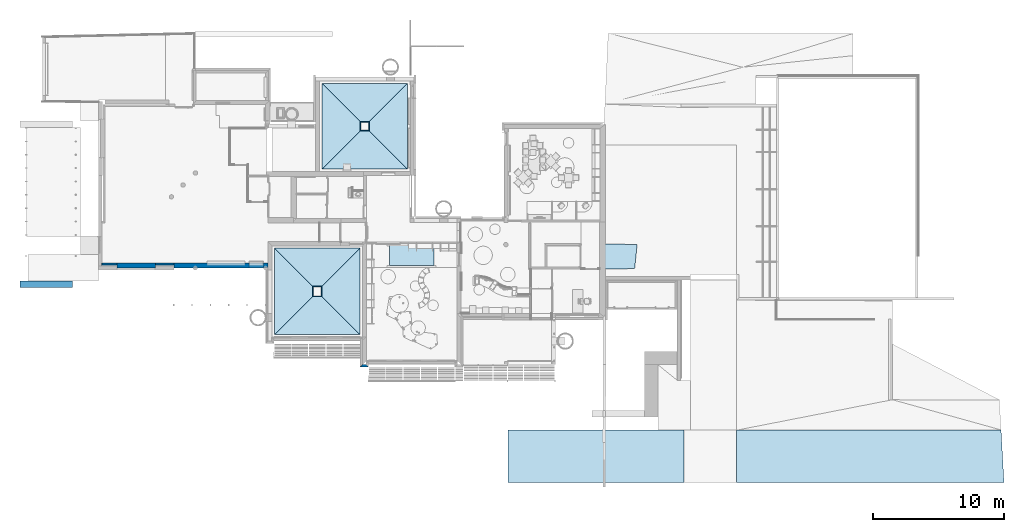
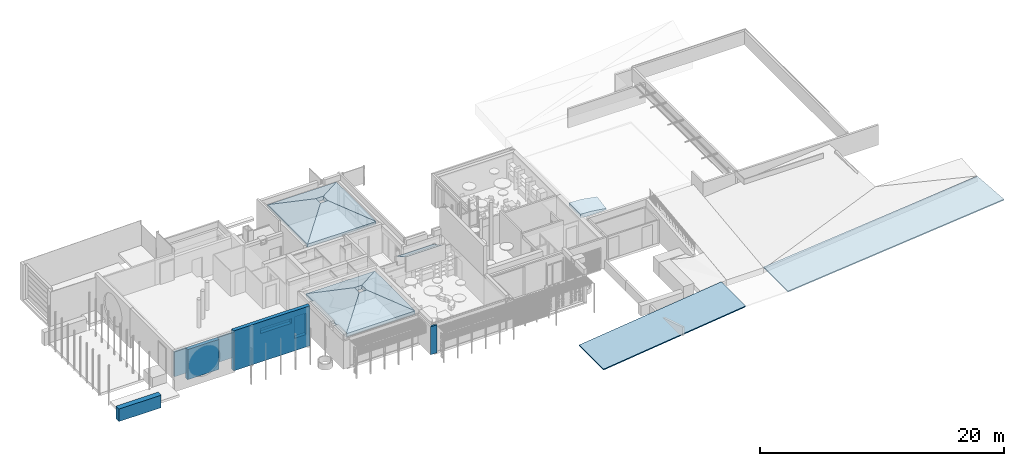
# One storey, part 18 of 64: 12 slabs, 8 walls, 2 openings.
"""IFC2X3 building model written with IfcOpenShell, lengths in metres."""

from ifc_helpers import new_model, entity, si_unit, converted_unit, derived_unit, direction, frame, frame_2d, origin, place, context, subcontext, project, spatial, polyline, rectangle, outline, extrude, faceted_brep, material, layer, layer_set, layer_usage, type_object, element, save


model = new_model("IFC2X3")

# Units and contexts
model_context = context("Model", 3, precision=1e-05, world=origin(), true_north=direction((6.123031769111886e-17, 1.0)))
body_context = subcontext(model_context, "Body", "Model", "MODEL_VIEW")
ifc_project = project(units=[si_unit("LENGTHUNIT", "METRE"), si_unit("AREAUNIT", "SQUARE_METRE"), si_unit("VOLUMEUNIT", "CUBIC_METRE"), converted_unit("PLANEANGLEUNIT", "DEGREE", entity("IfcRatioMeasure", 0.017453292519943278), si_unit("PLANEANGLEUNIT", "RADIAN"), dimensions=[0, 0, 0, 0, 0, 0, 0]), si_unit("MASSUNIT", "GRAM", prefix="KILO"), derived_unit("MASSDENSITYUNIT", [(si_unit("MASSUNIT", "GRAM", prefix="KILO"), 1), (si_unit("LENGTHUNIT", "METRE"), -3)]), derived_unit("MOMENTOFINERTIAUNIT", [(si_unit("LENGTHUNIT", "METRE"), 4)]), si_unit("TIMEUNIT", "SECOND"), si_unit("FREQUENCYUNIT", "HERTZ"), si_unit("THERMODYNAMICTEMPERATUREUNIT", "DEGREE_CELSIUS"), derived_unit("THERMALTRANSMITTANCEUNIT", [(si_unit("MASSUNIT", "GRAM", prefix="KILO"), 1), (si_unit("THERMODYNAMICTEMPERATUREUNIT", "KELVIN"), -1), (si_unit("TIMEUNIT", "SECOND"), -3)]), derived_unit("THERMALCONDUCTANCEUNIT", [(si_unit("MASSUNIT", "GRAM", prefix="KILO"), 1), (si_unit("LENGTHUNIT", "METRE"), 1), (si_unit("THERMODYNAMICTEMPERATUREUNIT", "KELVIN"), -1), (si_unit("TIMEUNIT", "SECOND"), -3)]), derived_unit("VOLUMETRICFLOWRATEUNIT", [(si_unit("LENGTHUNIT", "METRE"), 3), (si_unit("TIMEUNIT", "SECOND"), -1)]), derived_unit("MASSFLOWRATEUNIT", [(si_unit("MASSUNIT", "GRAM", prefix="KILO"), 1), (si_unit("TIMEUNIT", "SECOND"), -1)]), derived_unit("ROTATIONALFREQUENCYUNIT", [(si_unit("TIMEUNIT", "SECOND"), -1)]), si_unit("ELECTRICCURRENTUNIT", "AMPERE"), si_unit("ELECTRICVOLTAGEUNIT", "VOLT"), si_unit("POWERUNIT", "WATT"), si_unit("FORCEUNIT", "NEWTON", prefix="KILO"), si_unit("ILLUMINANCEUNIT", "LUX"), si_unit("LUMINOUSFLUXUNIT", "LUMEN"), si_unit("LUMINOUSINTENSITYUNIT", "CANDELA"), derived_unit("USERDEFINED", [(si_unit("MASSUNIT", "GRAM", prefix="KILO"), -1), (si_unit("LENGTHUNIT", "METRE"), -2), (si_unit("TIMEUNIT", "SECOND"), 3), (si_unit("LUMINOUSFLUXUNIT", "LUMEN"), 1)]), derived_unit("USERDEFINED", [(si_unit("MASSUNIT", "GRAM", prefix="KILO"), 1), (si_unit("LENGTHUNIT", "METRE"), 3), (si_unit("TIMEUNIT", "SECOND"), -3), (si_unit("ELECTRICCURRENTUNIT", "AMPERE"), -2)]), derived_unit("USERDEFINED", [(si_unit("LENGTHUNIT", "METRE"), 2), (si_unit("TIMEUNIT", "SECOND"), -2)]), derived_unit("SOUNDPOWERUNIT", [(si_unit("MASSUNIT", "GRAM", prefix="KILO"), 1), (si_unit("LENGTHUNIT", "METRE"), 2), (si_unit("TIMEUNIT", "SECOND"), -3)]), derived_unit("SOUNDPRESSUREUNIT", [(si_unit("MASSUNIT", "GRAM", prefix="KILO"), 1), (si_unit("LENGTHUNIT", "METRE"), -1), (si_unit("TIMEUNIT", "SECOND"), -2)]), derived_unit("LINEARVELOCITYUNIT", [(si_unit("LENGTHUNIT", "METRE"), 1), (si_unit("TIMEUNIT", "SECOND"), -1)]), si_unit("PRESSUREUNIT", "PASCAL"), derived_unit("USERDEFINED", [(si_unit("LENGTHUNIT", "METRE"), -2), (si_unit("MASSUNIT", "GRAM", prefix="KILO"), 1), (si_unit("TIMEUNIT", "SECOND"), -2)]), derived_unit("LINEARFORCEUNIT", [(si_unit("MASSUNIT", "GRAM", prefix="KILO"), 1), (si_unit("LENGTHUNIT", "METRE"), 1), (si_unit("TIMEUNIT", "SECOND"), -2), (si_unit("LENGTHUNIT", "METRE"), -1)]), derived_unit("PLANARFORCEUNIT", [(si_unit("MASSUNIT", "GRAM", prefix="KILO"), 1), (si_unit("LENGTHUNIT", "METRE"), 1), (si_unit("TIMEUNIT", "SECOND"), -2), (si_unit("LENGTHUNIT", "METRE"), -2)]), derived_unit("SPECIFICHEATCAPACITYUNIT", [(si_unit("LENGTHUNIT", "METRE"), 2), (si_unit("TIMEUNIT", "SECOND"), -2), (si_unit("THERMODYNAMICTEMPERATUREUNIT", "KELVIN"), -1)]), derived_unit("VAPORPERMEABILITYUNIT", [(si_unit("TIMEUNIT", "SECOND"), 1), (si_unit("LENGTHUNIT", "METRE"), -1)]), derived_unit("DYNAMICVISCOSITYUNIT", [(si_unit("MASSUNIT", "GRAM", prefix="KILO"), 1), (si_unit("LENGTHUNIT", "METRE"), -1), (si_unit("TIMEUNIT", "SECOND"), -1)]), derived_unit("THERMALEXPANSIONCOEFFICIENTUNIT", [(si_unit("THERMODYNAMICTEMPERATUREUNIT", "KELVIN"), -1)])], contexts=[model_context])

# Site, building, storey
site_placement = place(None, origin())
site = spatial("IfcSite", under=ifc_project, at=site_placement, Name="Default", CompositionType="ELEMENT")
building_placement = place(site_placement, origin())
building = spatial("IfcBuilding", under=site, at=building_placement, CompositionType="ELEMENT")
storey_placement = place(building_placement, origin())
storey = spatial("IfcBuildingStorey", under=building, at=storey_placement, Name="REZ-DE-CHAUSSÉE", CompositionType="ELEMENT", Elevation=0.0)

# Slabs
ifc_material_1 = material(Name="Béton - Brut")
slab_type_1 = type_object("IfcSlabType", Name="Dalle-005", PredefinedType="FLOOR", material=ifc_material_1)
slab_1_placement = place(storey_placement, frame((128.20075228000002, 11.468186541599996, 2.6399999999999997)))
element("IfcSlab", 1, at=slab_1_placement, inside=storey, type_object=slab_type_1, Name="Dalle-005:Dalle-005", ObjectType="Dalle-005:Dalle-005", PredefinedType="FLOOR", context=body_context, shape_type="Brep", body=[
    faceted_brep([(0.0, 0.00896808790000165, 0.4), (0.0, 0.00896808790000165, 0.0), (1.0294907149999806, 0.0, 0.0), (1.0294907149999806, 0.0, 0.35999999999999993), (0.0, 1.906072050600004, 0.4), (0.0, 1.906072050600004, 0.0), (1.150994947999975, 1.9012303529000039, 0.0), (2.6219714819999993, 1.8539534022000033, 0.0), (2.4378962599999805, 0.02518903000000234, 0.0), (2.4378962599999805, 0.02518903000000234, 0.13000000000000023), (1.150994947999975, 1.9012303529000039, 0.35999999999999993), (2.6219714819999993, 1.8539534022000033, 0.13000000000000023)], [[[0, 1, 2, 3]], [[1, 0, 4, 5]], [[1, 5, 6, 7, 8, 2]], [[9, 3, 2, 8]], [[3, 4, 0]], [[5, 4, 10, 6]], [[6, 10, 11, 7]], [[9, 8, 7, 11]], [[3, 9, 10]], [[4, 3, 10]], [[10, 9, 11]]]),
])
ifc_material_2 = material(Name="Isolation - Fibre de verre")
slab_type_2 = type_object("IfcSlabType", Name="Toit-01", PredefinedType="ROOF", material=ifc_material_2)
slab_2_placement = place(storey_placement, frame((103.16075228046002, 6.457209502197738, 2.5699999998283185)))
element("IfcSlab", 2, at=slab_2_placement, inside=storey, type_object=slab_type_2, Name="Toit-01 443125:Toit-01 443125", ObjectType="Toit-01 443125:Toit-01 443125", PredefinedType="ROOF", context=body_context, shape_type="Brep", body=[
    faceted_brep([(6.509999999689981, 0.0, 0.35303933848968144), (3.6195264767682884, 2.8904735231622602, 1.700000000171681), (2.8904735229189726, 2.8904735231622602, 1.700000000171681), (0.0, 0.0, 0.353039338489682), (6.510000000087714, 0.0, 0.022064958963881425), (3.5530578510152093, 2.956942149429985, 1.400000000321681), (2.9569421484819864, 2.9569421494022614, 1.400000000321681), (0.0, 0.0, 0.022064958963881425), (0.0, 0.0, 0.0), (6.510000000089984, 0.0, 0.0), (2.961373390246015, 2.961373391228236, 1.380000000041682), (3.5486266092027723, 2.9613733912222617, 1.3800000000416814)], [[[0, 1, 2, 3]], [[0, 4, 5, 1]], [[1, 5, 6, 2]], [[2, 6, 7, 3]], [[3, 7, 4, 0]], [[4, 7, 6, 5]], [[7, 8, 9, 4]], [[6, 10, 8, 7]], [[8, 10, 11, 9]], [[4, 9, 11, 5]], [[4, 5, 6, 7]], [[5, 11, 10, 6]]]),
])
slab_type_3 = type_object("IfcSlabType", Name="Toit-01", PredefinedType="ROOF", material=ifc_material_2)
slab_3_placement = place(storey_placement, frame((103.1607522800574, 10.085836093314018, 2.5699999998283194)))
element("IfcSlab", 3, at=slab_3_placement, inside=storey, type_object=slab_type_3, Name="Toit-01 443288:Toit-01 443288", ObjectType="Toit-01 443288:Toit-01 443288", PredefinedType="ROOF", context=body_context, shape_type="Brep", body=[
    faceted_brep([(2.890473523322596, 0.07089986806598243, 1.70000000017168), (3.619526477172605, 0.07089986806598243, 1.70000000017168), (6.5100000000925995, 2.961373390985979, 0.35303933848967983), (0.0, 2.961373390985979, 0.35303933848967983), (2.9569421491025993, 0.0044312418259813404, 1.40000000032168), (3.5530578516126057, 0.0044312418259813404, 1.40000000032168), (6.509999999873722, 2.961373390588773, 0.022064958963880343), (0.0, 2.961373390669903, 0.022064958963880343), (0.0, 2.9613733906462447, 0.0), (2.9613733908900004, 0.0, 1.3800000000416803), (6.509999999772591, 2.9613733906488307, 0.0), (3.5486266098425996, 0.0, 1.380000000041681)], [[[0, 1, 2, 3]], [[0, 4, 5, 1]], [[1, 5, 6, 2]], [[2, 6, 7, 3]], [[3, 7, 4, 0]], [[4, 7, 6, 5]], [[7, 8, 9, 4]], [[6, 10, 8, 7]], [[8, 10, 11, 9]], [[4, 9, 11, 5]], [[4, 5, 6, 7]], [[5, 11, 10, 6]]]),
])
slab_type_4 = type_object("IfcSlabType", Name="Toit-01", PredefinedType="ROOF", material=ifc_material_2)
slab_4_placement = place(storey_placement, frame((106.70937888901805, 6.457209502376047, 2.569999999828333)))
element("IfcSlab", 4, at=slab_4_placement, inside=storey, type_object=slab_type_4, Name="Toit-01 443451:Toit-01 443451", ObjectType="Toit-01 443451:Toit-01 443451", PredefinedType="ROOF", context=body_context, shape_type="Brep", body=[
    faceted_brep([(2.9613733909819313, 6.589999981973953, 0.35303933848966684), (0.07089986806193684, 3.6995264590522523, 1.700000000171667), (0.07089986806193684, 2.8904735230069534, 1.700000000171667), (2.9613733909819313, 0.0, 0.35303933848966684), (2.961373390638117, 6.5899999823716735, 0.022064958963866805), (0.004431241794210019, 3.633057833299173, 1.4000000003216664), (0.004431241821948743, 2.956942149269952, 1.4000000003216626), (2.9613733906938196, 0.0, 0.022064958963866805), (2.9613733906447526, 0.0, 0.0), (2.9613733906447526, 6.5899999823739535, 0.0), (0.0, 2.9613733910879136, 1.3800000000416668), (0.0, 3.6286265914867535, 1.3800000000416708)], [[[0, 1, 2, 3]], [[0, 4, 5, 1]], [[1, 5, 6, 2]], [[2, 6, 7, 3]], [[3, 7, 4, 0]], [[4, 7, 6, 5]], [[7, 8, 9, 4]], [[6, 10, 8, 7]], [[8, 10, 11, 9]], [[4, 9, 11, 5]], [[4, 5, 6, 7]], [[5, 11, 10, 6]]]),
])
slab_type_5 = type_object("IfcSlabType", Name="Toit-01", PredefinedType="ROOF", material=ifc_material_2)
slab_5_placement = place(storey_placement, frame((103.16075228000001, 6.45720950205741, 2.569999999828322)))
element("IfcSlab", 5, at=slab_5_placement, inside=storey, type_object=slab_type_5, Name="Toit-01 443614:Toit-01 443614", ObjectType="Toit-01 443614:Toit-01 443614", PredefinedType="ROOF", context=body_context, shape_type="Brep", body=[
    faceted_brep([(2.890473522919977, 2.8904735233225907, 1.7000000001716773), (2.890473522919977, 3.6995264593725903, 1.7000000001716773), (0.0, 6.589999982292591, 0.3530393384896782), (0.0, 0.0, 0.3530393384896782), (2.9569421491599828, 2.956942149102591, 1.4000000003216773), (2.9569421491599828, 3.633057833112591, 1.4000000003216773), (0.0, 6.589999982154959, 0.022064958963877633), (0.0, 0.0, 0.022064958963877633), (0.0, 0.0, 0.0), (2.9613733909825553, 2.961373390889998, 1.3800000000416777), (0.0, 6.58999998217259, 0.0), (2.9613733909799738, 3.628626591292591, 1.3800000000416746)], [[[0, 1, 2, 3]], [[0, 4, 5, 1]], [[1, 5, 6, 2]], [[2, 6, 7, 3]], [[3, 7, 4, 0]], [[4, 7, 6, 5]], [[7, 8, 9, 4]], [[6, 10, 8, 7]], [[8, 10, 11, 9]], [[4, 9, 11, 5]], [[4, 5, 6, 7]], [[5, 11, 10, 6]]]),
])
slab_type_6 = type_object("IfcSlabType", Name="Toit-01", PredefinedType="ROOF", material=ifc_material_2)
slab_6_placement = place(storey_placement, frame((106.80075227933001, 19.097209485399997, 2.5699999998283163)))
element("IfcSlab", 6, at=slab_6_placement, inside=storey, type_object=slab_type_6, Name="Toit-01 443777:Toit-01 443777", ObjectType="Toit-01 443777:Toit-01 443777", PredefinedType="ROOF", context=body_context, shape_type="Brep", body=[
    faceted_brep([(6.489999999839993, 0.0, 0.3530393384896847), (3.599526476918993, 2.890473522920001, 1.7000000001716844), (2.890473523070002, 2.890473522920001, 1.7000000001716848), (0.0, 0.0, 0.3530393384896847), (6.490000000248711, 0.0, 0.02206495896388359), (3.533057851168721, 2.9569421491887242, 1.400000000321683), (2.9569421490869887, 2.9569421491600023, 1.400000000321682), (0.0, 0.0, 0.02206495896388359), (0.0, 0.0, 0.02206495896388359), (0.0, 0.0, 0.0), (6.490000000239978, 0.0, 0.0), (2.961373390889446, 2.9613733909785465, 1.3800000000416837), (3.5286266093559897, 2.9613733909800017, 1.380000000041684)], [[[0, 1, 2, 3]], [[0, 4, 5, 1]], [[1, 5, 6, 2]], [[2, 6, 7, 3]], [[3, 8, 4, 0]], [[4, 8, 6, 5]], [[8, 9, 10, 4]], [[6, 11, 9, 8]], [[9, 11, 12, 10]], [[4, 10, 12, 5]], [[4, 5, 6, 8]], [[5, 12, 11, 6]]]),
])
slab_type_7 = type_object("IfcSlabType", Name="Toit-01", PredefinedType="ROOF", material=ifc_material_2)
slab_7_placement = place(storey_placement, frame((110.32937888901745, 19.097209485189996, 2.5699999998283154)))
element("IfcSlab", 7, at=slab_7_placement, inside=storey, type_object=slab_type_7, Name="Toit-01 443940:Toit-01 443940", ObjectType="Toit-01 443940:Toit-01 443940", PredefinedType="ROOF", context=body_context, shape_type="Brep", body=[
    faceted_brep([(0.07089986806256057, 3.629526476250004, 1.7000000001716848), (0.07089986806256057, 2.8904735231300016, 1.7000000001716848), (2.9613733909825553, 0.0, 0.3530393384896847), (2.9613733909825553, 6.519999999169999, 0.3530393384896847), (0.004431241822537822, 3.5630578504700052, 1.400000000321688), (0.004431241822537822, 2.956942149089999, 1.400000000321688), (2.961373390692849, 0.0, 0.022064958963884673), (2.961373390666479, 6.519999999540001, 0.022064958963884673), (2.9613733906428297, 6.519999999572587, 0.0), (0.0, 3.558626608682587, 1.3800000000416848), (2.9613733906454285, 0.0, 0.0), (0.0, 2.961373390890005, 1.380000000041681)], [[[0, 1, 2, 3]], [[0, 4, 5, 1]], [[1, 5, 6, 2]], [[2, 6, 7, 3]], [[3, 7, 4, 0]], [[4, 7, 6, 5]], [[7, 8, 9, 4]], [[6, 10, 8, 7]], [[8, 10, 11, 9]], [[4, 9, 11, 5]], [[4, 5, 6, 7]], [[5, 11, 10, 6]]]),
])
slab_type_8 = type_object("IfcSlabType", Name="Toit-01", PredefinedType="ROOF", material=ifc_material_2)
slab_8_placement = place(storey_placement, frame((106.80075227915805, 22.655836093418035, 2.5699999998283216)))
element("IfcSlab", 8, at=slab_8_placement, inside=storey, type_object=slab_type_8, Name="Toit-01 444103:Toit-01 444103", ObjectType="Toit-01 444103:Toit-01 444103", PredefinedType="ROOF", context=body_context, shape_type="Brep", body=[
    faceted_brep([(0.0, 2.961373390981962, 0.35303933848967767), (2.8904735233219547, 0.07089986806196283, 1.7000000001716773), (3.599526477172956, 0.07089986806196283, 1.7000000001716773), (6.490000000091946, 2.961373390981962, 0.3530393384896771), (0.0, 2.96137339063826, 0.022064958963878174), (2.956942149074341, 0.0044312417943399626, 1.4000000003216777), (3.533057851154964, 0.004431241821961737, 1.4000000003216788), (6.490000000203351, 2.961373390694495, 0.022064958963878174), (6.490000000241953, 2.9613733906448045, 0.0), (0.0, 2.9613733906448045, 0.0), (3.528626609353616, 0.0, 1.3800000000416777), (2.961373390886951, 0.0, 1.3800000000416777)], [[[0, 1, 2, 3]], [[0, 4, 5, 1]], [[1, 5, 6, 2]], [[2, 6, 7, 3]], [[3, 7, 4, 0]], [[4, 7, 6, 5]], [[7, 8, 9, 4]], [[6, 10, 8, 7]], [[8, 10, 11, 9]], [[4, 9, 11, 5]], [[4, 5, 6, 7]], [[5, 11, 10, 6]]]),
])
slab_type_9 = type_object("IfcSlabType", Name="Toit-01", PredefinedType="ROOF", material=ifc_material_2)
slab_9_placement = place(storey_placement, frame((106.80075227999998, 19.097209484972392, 2.569999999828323)))
element("IfcSlab", 9, at=slab_9_placement, inside=storey, type_object=slab_type_9, Name="Toit-01 444266:Toit-01 444266", ObjectType="Toit-01 444266:Toit-01 444266", PredefinedType="ROOF", context=body_context, shape_type="Brep", body=[
    faceted_brep([(2.890473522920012, 2.890473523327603, 1.700000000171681), (2.890473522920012, 3.6295264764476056, 1.700000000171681), (0.0, 6.519999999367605, 0.35303933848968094), (0.0, 0.0, 0.35303933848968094), (2.95694214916, 2.9569421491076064, 1.40000000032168), (2.95694214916, 3.563057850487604, 1.40000000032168), (0.0, 6.519999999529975, 0.02206495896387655), (0.0, 0.0, 0.022064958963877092), (0.0, 0.0, 0.0), (2.961373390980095, 2.961373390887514, 1.3800000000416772), (0.0, 6.519999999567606, 0.0), (2.9613733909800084, 3.558626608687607, 1.380000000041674)], [[[0, 1, 2, 3]], [[0, 4, 5, 1]], [[1, 5, 6, 2]], [[2, 6, 7, 3]], [[3, 7, 4, 0]], [[4, 7, 6, 5]], [[7, 8, 9, 4]], [[6, 10, 8, 7]], [[8, 10, 11, 9]], [[4, 9, 11, 5]], [[4, 5, 6, 7]], [[5, 11, 10, 6]]]),
])
ifc_material_3 = material(Name="Transp. - Verre clair (rapide)")
ifc_layer_1 = layer(ifc_material_3, 0.0173882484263)
ifc_layer_set_1 = layer_set([ifc_layer_1], Name="Toit de base:Toit-01:1421")
ifc_layer_usage_1 = layer_usage(ifc_layer_set_1, "AXIS3", "NEGATIVE", 0.0)
slab_type_10 = type_object("IfcSlabType", Name="Toit-01", PredefinedType="ROOF")
slab_10_placement = place(storey_placement, frame((111.93075227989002, 11.747209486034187, 3.340000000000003)))
element("IfcSlab", 10, at=slab_10_placement, inside=storey, type_object=slab_type_10, material=ifc_layer_usage_1, Name="Toit de base:Toit-01:1421", ObjectType="Toit de base:Toit-01:1421", PredefinedType="ROOF", context=body_context, shape_type="Brep", body=[
    faceted_brep([(0.0, 0.0, 0.9547440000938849), (0.0, 1.6800000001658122, 0.0), (3.3899999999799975, 1.6800000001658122, 0.0), (3.3899999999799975, 0.0, 0.9547440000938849), (0.0, 1.6800000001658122, 0.0200000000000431), (0.0, 0.0, 0.974744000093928), (3.3899999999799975, 0.0, 0.974744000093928), (3.3899999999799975, 1.6800000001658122, 0.0200000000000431)], [[[0, 1, 2, 3]], [[4, 5, 6, 7]], [[5, 4, 1, 0]], [[6, 5, 0, 3]], [[7, 6, 3, 2]], [[4, 7, 2, 1]]]),
])
ifc_material_4 = material(Name="Env. - Galets")
ifc_layer_2 = layer(ifc_material_4, 0.0992876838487)
ifc_layer_set_2 = layer_set([ifc_layer_2], Name="Toit de base:Toit-02:1440")
ifc_layer_usage_2 = layer_usage(ifc_layer_set_2, "AXIS3", "NEGATIVE", 0.0)
slab_type_11 = type_object("IfcSlabType", Name="Toit-02", PredefinedType="ROOF")
slab_11_placement = place(storey_placement, frame((120.97074673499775, -4.81279049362, -0.121999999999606)))
element("IfcSlab", 11, at=slab_11_placement, inside=storey, type_object=slab_type_11, material=ifc_layer_usage_2, Name="Toit de base:Toit-02:1440", ObjectType="Toit de base:Toit-02:1440", PredefinedType="ROOF", context=body_context, shape_type="Brep", body=[
    faceted_brep([(13.430005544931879, 0.0, 1.611600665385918), (0.0, 0.0, 0.0), (0.0, 4.0, 0.0), (13.430005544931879, 4.0, 1.611600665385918), (0.0, 0.0, 0.10000000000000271), (13.430005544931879, 0.0, 1.7116006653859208), (13.430005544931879, 4.0, 1.7116006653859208), (0.0, 4.0, 0.10000000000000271)], [[[0, 1, 2, 3]], [[4, 5, 6, 7]], [[5, 4, 1, 0]], [[6, 5, 0, 3]], [[7, 6, 3, 2]], [[4, 7, 2, 1]]]),
])
slab_12_placement = place(storey_placement, frame((138.40075227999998, -4.812790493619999, 1.5700000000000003)))
element("IfcSlab", 12, at=slab_12_placement, inside=storey, type_object=slab_type_11, material=ifc_layer_usage_2, Name="Toit de base:Toit-02:1440", ObjectType="Toit de base:Toit-02:1440", PredefinedType="ROOF", context=body_context, shape_type="Brep", body=[
    faceted_brep([(20.40618322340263, 0.0, 2.040618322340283), (0.0, 0.0, 0.0), (0.0, 4.0, 0.0), (20.183488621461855, 4.0, 2.018348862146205), (0.0, 0.0, 0.09978288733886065), (20.40618322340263, 0.0, 2.140401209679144), (20.183488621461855, 4.0, 2.118131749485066), (0.0, 4.0, 0.09978288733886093)], [[[0, 1, 2, 3]], [[4, 5, 6, 7]], [[5, 4, 1, 0]], [[6, 5, 0, 3]], [[7, 6, 3, 2]], [[4, 7, 2, 1]]]),
])

# Walls
ifc_material_5 = material(Name="Enduit - Jaune nature")
ifc_layer_3 = layer(ifc_material_5, 0.02)
ifc_layer_4 = layer(ifc_material_2, 0.14)
ifc_layer_set_3 = layer_set([ifc_layer_3, ifc_layer_4], Name="Mur de base:ABA ITE 140 + enduit 160")
ifc_layer_usage_3 = layer_usage(ifc_layer_set_3, "AXIS2", "NEGATIVE", 0.08)
wall_type_1 = type_object("IfcWallType", Name="Mur de base:ABA ITE 140 + enduit 160", PredefinedType="STANDARD", material=ifc_layer_set_3)
wall_1_placement = place(storey_placement, frame((110.33075228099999, 4.08720948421, 0.0), z_axis=(0.0, 0.0, 1.0), x_axis=(-1.0, 0.0, 0.0)))
element("IfcWallStandardCase", 13, at=wall_1_placement, inside=storey, type_object=wall_type_1, material=ifc_layer_usage_3, Name="MurExt-016", ObjectType="Mur de base:ABA ITE 140 + enduit 160", context=body_context, shape_type="SweptSolid", body=[
    extrude(outline(polyline([(0.4599999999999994, -0.07999999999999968), (0.6199999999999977, 0.08000000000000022), (0.0, 0.08000000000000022), (0.15999999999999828, -0.07999999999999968), (0.4599999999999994, -0.07999999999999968)])), origin(), (0.0, 0.0, 1.0), 2.8),
])
ifc_material_6 = material(Name="Bois - Pin granuleux horizontal")
ifc_layer_5 = layer(ifc_material_6, 0.031999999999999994)
ifc_material_7 = material(Name="Air - Vide d'air")
ifc_layer_6 = layer(ifc_material_7, 0.054)
ifc_material_8 = material(Name="Bois - Panneaux de particules")
ifc_layer_7 = layer(ifc_material_8, 0.022)
ifc_layer_8 = layer(ifc_material_2, 0.12)
ifc_layer_9 = layer(ifc_material_8, 0.022)
ifc_layer_10 = layer(ifc_material_2, 0.08699999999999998)
ifc_material_9 = material(Name="Plâtre - Plaques de plâtre")
ifc_layer_11 = layer(ifc_material_9, 0.013)
ifc_layer_set_4 = layer_set([ifc_layer_5, ifc_layer_6, ifc_layer_7, ifc_layer_8, ifc_layer_9, ifc_layer_10, ifc_layer_11], Name="Mur de base:ABA MOB ITI bardage 350")
ifc_layer_usage_4 = layer_usage(ifc_layer_set_4, "AXIS2", "NEGATIVE", 0.17500000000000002)
wall_type_2 = type_object("IfcWallType", Name="Mur de base:ABA MOB ITI bardage 350", PredefinedType="STANDARD", material=ifc_layer_set_4)
wall_2_placement = place(storey_placement, frame((102.66075227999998, 11.732209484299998, -1.2), z_axis=(0.0, 0.0, 1.0), x_axis=(-1.0, 0.0, 0.0)))
element("IfcWallStandardCase", 14, at=wall_2_placement, inside=storey, type_object=wall_type_2, material=ifc_layer_usage_4, Name="MurExt-005", ObjectType="Mur de base:ABA MOB ITI bardage 350", context=body_context, shape_type="SweptSolid", body=[
    extrude(rectangle(XDim=7.179999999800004, YDim=0.3499999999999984, at=frame_2d((3.589999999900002, 0.0), x_axis=(-1.0, 0.0))), origin(), (0.0, 0.0, 1.0), 4.0),
])
for number, where, z_axis, x_axis, name in (
    (15, (94.0907467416, 11.732209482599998, -0.5599999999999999), (0.0, 0.0, 1.0), (-1.0, 0.0, 0.0), "MurExt-005"),
    (16, (94.0907467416, 11.732209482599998, -0.5599999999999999), (0.0, 0.0, 1.0), (-1.0, 0.0, 0.0), "MurExt-005"),
):
    element("IfcWallStandardCase", number, at=place(storey_placement, frame(where, z_axis=z_axis, x_axis=x_axis)), inside=storey, type_object=wall_type_2, material=ifc_layer_usage_4, Name=name, ObjectType="Mur de base:ABA MOB ITI bardage 350", context=body_context, shape_type="SweptSolid", body=[
        extrude(rectangle(XDim=2.9599944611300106, YDim=0.3499999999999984, at=frame_2d((1.4799972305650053, 0.0), x_axis=(-1.0, 0.0))), origin(), (0.0, 0.0, 1.0), 3.01),
    ])

# Wall, openings
wall_3_placement = place(storey_placement, frame((102.66075227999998, 11.732209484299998, -1.2), z_axis=(0.0, 0.0, 1.0), x_axis=(-1.0, 0.0, 0.0)))
wall_3 = element("IfcWallStandardCase", 17, at=wall_3_placement, inside=storey, type_object=wall_type_2, material=ifc_layer_usage_4, Name="MurExt-005", ObjectType="Mur de base:ABA MOB ITI bardage 350", context=body_context, shape_type="SweptSolid", body=[
    extrude(rectangle(XDim=7.179999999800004, YDim=0.3500000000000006, at=frame_2d((3.589999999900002, -1.0824674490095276e-15), x_axis=(-1.0, 0.0))), origin(), (0.0, 0.0, 1.0), 4.0),
])
opening_1_placement = place(wall_3_placement, frame((102.66075227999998, 11.732209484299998, 1.2), z_axis=(0.0, 0.0, 1.0), x_axis=(-1.0, 0.0, 0.0)))
element("IfcOpeningElement", 18, at=opening_1_placement, cuts=wall_3, Name="MurExt-005", ObjectType="Opening", context=body_context, shape_type="SweptSolid", body=[
    extrude(rectangle(XDim=0.48, YDim=2.899999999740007, at=frame_2d((0.0, 1.3877787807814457e-16), x_axis=(0.0, 1.0))), frame((99.46075228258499, 12.085709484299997, 1.89), z_axis=(0.0, -1.0, 0.0), x_axis=(1.0, 0.0, 0.0)), (0.0, 0.0, 1.0), 0.7069999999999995),
])
opening_2_placement = place(wall_3_placement, frame((102.66075227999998, 11.732209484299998, 1.2), z_axis=(0.0, 0.0, 1.0), x_axis=(-1.0, 0.0, 0.0)))
element("IfcOpeningElement", 19, at=opening_2_placement, cuts=wall_3, Name="MurExt-005", ObjectType="Opening", context=body_context, shape_type="SweptSolid", body=[
    extrude(rectangle(XDim=2.12, YDim=1.0800000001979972, at=frame_2d((0.0, 0.0), x_axis=(0.0, 1.0))), frame((101.770752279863, 12.085709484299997, 1.1099999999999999), z_axis=(0.0, -1.0, 0.0), x_axis=(1.0, 0.0, 0.0)), (0.0, 0.0, 1.0), 0.7069999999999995),
])

# Walls
ifc_layer_12 = layer(ifc_material_9, 0.013)
ifc_layer_13 = layer(ifc_material_2, 0.127)
ifc_layer_set_5 = layer_set([ifc_layer_12, ifc_layer_13], Name="Mur de base:ABA doublage 14cm 140")
ifc_layer_usage_5 = layer_usage(ifc_layer_set_5, "AXIS2", "NEGATIVE", 0.07)
wall_type_3 = type_object("IfcWallType", Name="Mur de base:ABA doublage 14cm 140", PredefinedType="STANDARD", material=ifc_layer_set_5)
wall_4_placement = place(storey_placement, frame((90.0007522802, 11.837209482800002, 0.0)))
element("IfcWallStandardCase", 20, at=wall_4_placement, inside=storey, type_object=wall_type_3, material=ifc_layer_usage_5, Name="MurExt-025", ObjectType="Mur de base:ABA doublage 14cm 140", context=body_context, shape_type="SweptSolid", body=[
    extrude(rectangle(XDim=1.1300000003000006, YDim=0.1399999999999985, at=frame_2d((0.5650000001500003, 0.0), x_axis=(-1.0, 0.0))), origin(), (0.0, 0.0, 1.0), 2.4999999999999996),
])
wall_5_placement = place(storey_placement, frame((94.09074674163, 11.8372094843, 0.0)))
element("IfcWallStandardCase", 21, at=wall_5_placement, inside=storey, type_object=wall_type_3, material=ifc_layer_usage_5, Name="MurExt-024", ObjectType="Mur de base:ABA doublage 14cm 140", context=body_context, shape_type="SweptSolid", body=[
    extrude(rectangle(XDim=1.3900055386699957, YDim=0.1399999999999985, at=frame_2d((0.6950027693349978, 0.0), x_axis=(-1.0, 0.0))), origin(), (0.0, 0.0, 1.0), 2.4999999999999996),
])
ifc_material_10 = material(Name="Peinture - Beige sable")
ifc_layer_14 = layer(ifc_material_10, 0.49999999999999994)
ifc_layer_set_6 = layer_set([ifc_layer_14], Name="Mur de base:Finition ext - Fibre-ciment 500")
ifc_layer_usage_6 = layer_usage(ifc_layer_set_6, "AXIS2", "NEGATIVE", 0.24999999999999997)
wall_type_4 = type_object("IfcWallType", Name="Mur de base:Finition ext - Fibre-ciment 500", PredefinedType="STANDARD", material=ifc_layer_set_6)
wall_6_placement = place(storey_placement, frame((83.7507522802, 10.3072094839, -1.2499999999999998)))
element("IfcWallStandardCase", 22, at=wall_6_placement, inside=storey, type_object=wall_type_4, material=ifc_layer_usage_6, Name="MurExt-021", ObjectType="Mur de base:Finition ext - Fibre-ciment 500", context=body_context, shape_type="SweptSolid", body=[
    extrude(rectangle(XDim=3.9999999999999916, YDim=0.49999999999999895, at=frame_2d((1.9999999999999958, 0.0), x_axis=(-1.0, 0.0))), origin(), (0.0, 0.0, 1.0), 1.2499999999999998),
])

save(model, "model.ifc")
